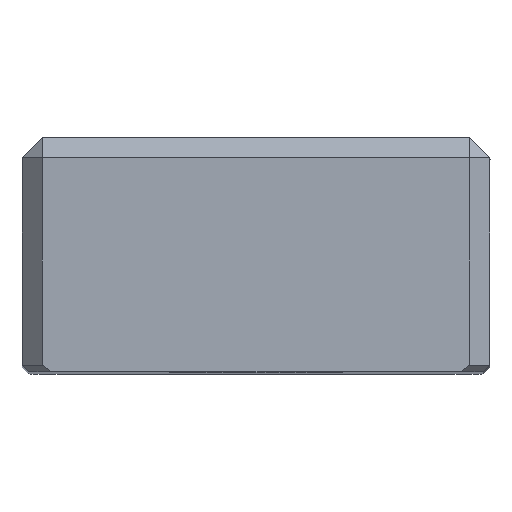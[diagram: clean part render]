
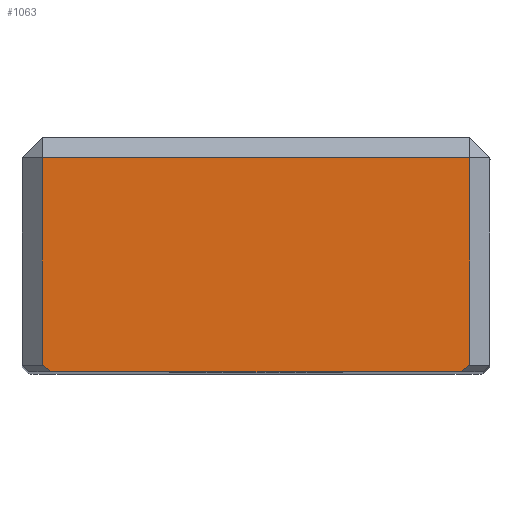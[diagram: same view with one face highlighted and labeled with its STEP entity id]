
A CAD part, top view. The second image highlights one B-rep face of the part: STEP entity #1063.
In plain terms, the highlighted planar face has unit normal (0, 0, 1).
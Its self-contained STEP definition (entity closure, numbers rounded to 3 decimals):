
#1020=AXIS2_PLACEMENT_3D('Plane Axis2P3D',#1017,#1018,#1019) ;
#456=CARTESIAN_POINT('Vertex',(-32.,-3.,0.)) ;
#459=CARTESIAN_POINT('Line Origine',(0.,-3.,0.)) ;
#463=CARTESIAN_POINT('Vertex',(32.,-3.,0.)) ;
#1017=CARTESIAN_POINT('Axis2P3D Location',(35.,0.,0.)) ;
#1022=CARTESIAN_POINT('Line Origine',(31.293,-34.5,0.)) ;
#1026=CARTESIAN_POINT('Vertex',(32.,-34.,0.)) ;
#1028=CARTESIAN_POINT('Vertex',(30.586,-35.,0.)) ;
#1031=CARTESIAN_POINT('Line Origine',(32.,-18.5,0.)) ;
#1036=CARTESIAN_POINT('Line Origine',(-32.,-18.5,0.)) ;
#1040=CARTESIAN_POINT('Vertex',(-32.,-34.,0.)) ;
#1043=CARTESIAN_POINT('Line Origine',(-31.293,-34.5,0.)) ;
#1047=CARTESIAN_POINT('Vertex',(-30.586,-35.,0.)) ;
#1050=CARTESIAN_POINT('Line Origine',(0.,-35.,0.)) ;
#460=DIRECTION('Vector Direction',(1.,0.,0.)) ;
#1018=DIRECTION('Axis2P3D Direction',(0.,0.,1.)) ;
#1019=DIRECTION('Axis2P3D XDirection',(-1.,0.,0.)) ;
#1023=DIRECTION('Vector Direction',(0.816,0.577,0.)) ;
#1032=DIRECTION('Vector Direction',(0.,-1.,0.)) ;
#1037=DIRECTION('Vector Direction',(0.,1.,0.)) ;
#1044=DIRECTION('Vector Direction',(0.816,-0.577,0.)) ;
#1051=DIRECTION('Vector Direction',(1.,0.,0.)) ;
#461=VECTOR('Line Direction',#460,1.) ;
#1024=VECTOR('Line Direction',#1023,1.) ;
#1033=VECTOR('Line Direction',#1032,1.) ;
#1038=VECTOR('Line Direction',#1037,1.) ;
#1045=VECTOR('Line Direction',#1044,1.) ;
#1052=VECTOR('Line Direction',#1051,1.) ;
#1056=ORIENTED_EDGE('',*,*,#1030,.F.) ;
#1057=ORIENTED_EDGE('',*,*,#1035,.F.) ;
#1058=ORIENTED_EDGE('',*,*,#465,.F.) ;
#1059=ORIENTED_EDGE('',*,*,#1042,.F.) ;
#1060=ORIENTED_EDGE('',*,*,#1049,.F.) ;
#1061=ORIENTED_EDGE('',*,*,#1054,.T.) ;
#1063=ADVANCED_FACE('MANIFOLD_SOLID_BREP #2915',(#1062),#1021,.T.) ;
#465=EDGE_CURVE('',#457,#464,#462,.T.) ;
#1030=EDGE_CURVE('',#1027,#1029,#1025,.F.) ;
#1035=EDGE_CURVE('',#464,#1027,#1034,.T.) ;
#1042=EDGE_CURVE('',#1041,#457,#1039,.T.) ;
#1049=EDGE_CURVE('',#1048,#1041,#1046,.F.) ;
#1054=EDGE_CURVE('',#1048,#1029,#1053,.T.) ;
#1055=EDGE_LOOP('',(#1056,#1057,#1058,#1059,#1060,#1061)) ;
#1062=FACE_OUTER_BOUND('',#1055,.T.) ;
#462=LINE('Line',#459,#461) ;
#1025=LINE('Line',#1022,#1024) ;
#1034=LINE('Line',#1031,#1033) ;
#1039=LINE('Line',#1036,#1038) ;
#1046=LINE('Line',#1043,#1045) ;
#1053=LINE('Line',#1050,#1052) ;
#1021=PLANE('Plane',#1020) ;
#457=VERTEX_POINT('',#456) ;
#464=VERTEX_POINT('',#463) ;
#1027=VERTEX_POINT('',#1026) ;
#1029=VERTEX_POINT('',#1028) ;
#1041=VERTEX_POINT('',#1040) ;
#1048=VERTEX_POINT('',#1047) ;
